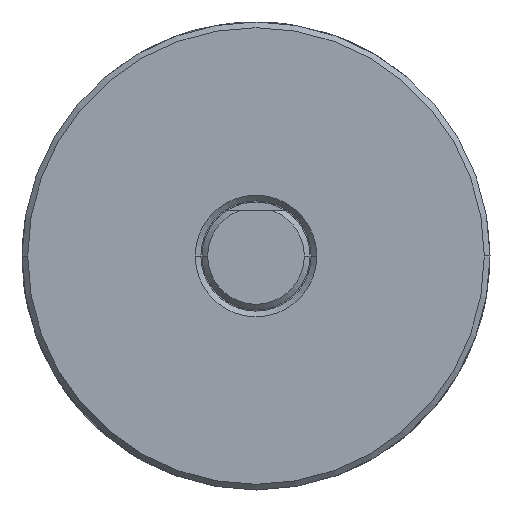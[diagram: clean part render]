
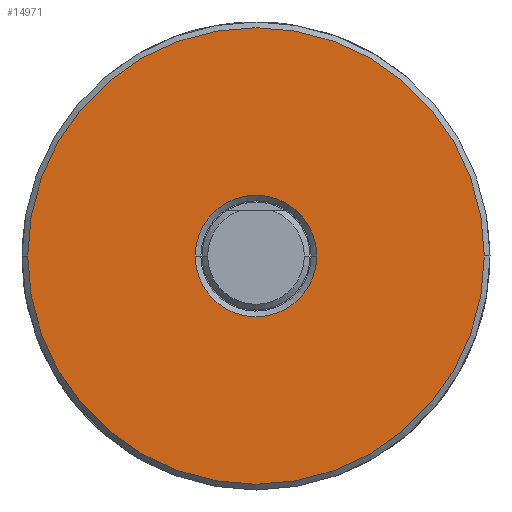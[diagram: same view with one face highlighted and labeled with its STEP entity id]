
A CAD part, left-side view. The second image highlights one B-rep face of the part: STEP entity #14971.
In plain terms, the highlighted planar face has unit normal (-1, 0, 0).
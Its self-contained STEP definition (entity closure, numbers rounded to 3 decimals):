
#7430 = CARTESIAN_POINT ( 'NONE',  ( 19.05, -5.363, 0. ) ) ;
#7431 = DIRECTION ( 'NONE',  ( 0., -1., 0. ) ) ;
#7432 = DIRECTION ( 'NONE',  ( 1., 0., 0. ) ) ;
#7433 = CARTESIAN_POINT ( 'NONE',  ( 19.05, 0., 0. ) ) ;
#7434 = AXIS2_PLACEMENT_3D ( 'NONE', #7433, #7432, #7431 ) ;
#7435 = CIRCLE ( 'NONE', #7434, 5.363 ) ;
#7436 = CARTESIAN_POINT ( 'NONE',  ( 19.05, 5.363, 0. ) ) ;
#12678 = VERTEX_POINT ( 'NONE', #7436 ) ;
#12680 = EDGE_CURVE ( 'NONE', #12681, #12678, #7435, .T. ) ;
#12681 = VERTEX_POINT ( 'NONE', #7430 ) ;
#13752 = VERTEX_POINT ( 'NONE', #21359 ) ;
#13806 = EDGE_CURVE ( 'NONE', #13810, #13752, #21456, .T. ) ;
#13810 = VERTEX_POINT ( 'NONE', #21451 ) ;
#14971 = ADVANCED_FACE ( 'NONE', ( #25569, #25568 ), #25567, .T. ) ;
#14972 = EDGE_LOOP ( 'NONE', ( #14973, #14974 ) ) ;
#14973 = ORIENTED_EDGE ( 'NONE', *, *, #12680, .T. ) ;
#14974 = ORIENTED_EDGE ( 'NONE', *, *, #14975, .T. ) ;
#14975 = EDGE_CURVE ( 'NONE', #12678, #12681, #25562, .T. ) ;
#14976 = EDGE_LOOP ( 'NONE', ( #14977, #14979 ) ) ;
#14977 = ORIENTED_EDGE ( 'NONE', *, *, #14978, .T. ) ;
#14978 = EDGE_CURVE ( 'NONE', #13752, #13810, #25557, .T. ) ;
#14979 = ORIENTED_EDGE ( 'NONE', *, *, #13806, .T. ) ;
#21359 = CARTESIAN_POINT ( 'NONE',  ( 19.05, 20.137, 0. ) ) ;
#21451 = CARTESIAN_POINT ( 'NONE',  ( 19.05, -20.137, 0. ) ) ;
#21453 = DIRECTION ( 'NONE',  ( 0., -1., 0. ) ) ;
#21454 = DIRECTION ( 'NONE',  ( -1., 0., 0. ) ) ;
#21455 = AXIS2_PLACEMENT_3D ( 'NONE', #21461, #21454, #21453 ) ;
#21456 = CIRCLE ( 'NONE', #21455, 20.137 ) ;
#21461 = CARTESIAN_POINT ( 'NONE',  ( 19.05, 0., 0. ) ) ;
#25553 = DIRECTION ( 'NONE',  ( 0., -1., 0. ) ) ;
#25554 = DIRECTION ( 'NONE',  ( -1., 0., 0. ) ) ;
#25555 = CARTESIAN_POINT ( 'NONE',  ( 19.05, 0., 0. ) ) ;
#25556 = AXIS2_PLACEMENT_3D ( 'NONE', #25555, #25554, #25553 ) ;
#25557 = CIRCLE ( 'NONE', #25556, 20.137 ) ;
#25558 = DIRECTION ( 'NONE',  ( 0., -1., 0. ) ) ;
#25559 = DIRECTION ( 'NONE',  ( 1., 0., 0. ) ) ;
#25560 = CARTESIAN_POINT ( 'NONE',  ( 19.05, 0., 0. ) ) ;
#25561 = AXIS2_PLACEMENT_3D ( 'NONE', #25560, #25559, #25558 ) ;
#25562 = CIRCLE ( 'NONE', #25561, 5.363 ) ;
#25563 = DIRECTION ( 'NONE',  ( 0., -1., 0. ) ) ;
#25564 = DIRECTION ( 'NONE',  ( -1., 0., 0. ) ) ;
#25565 = CARTESIAN_POINT ( 'NONE',  ( 19.05, 4.763, 0. ) ) ;
#25566 = AXIS2_PLACEMENT_3D ( 'NONE', #25565, #25564, #25563 ) ;
#25567 = PLANE ( 'NONE',  #25566 ) ;
#25568 = FACE_OUTER_BOUND ( 'NONE', #14976, .T. ) ;
#25569 = FACE_BOUND ( 'NONE', #14972, .T. ) ;
